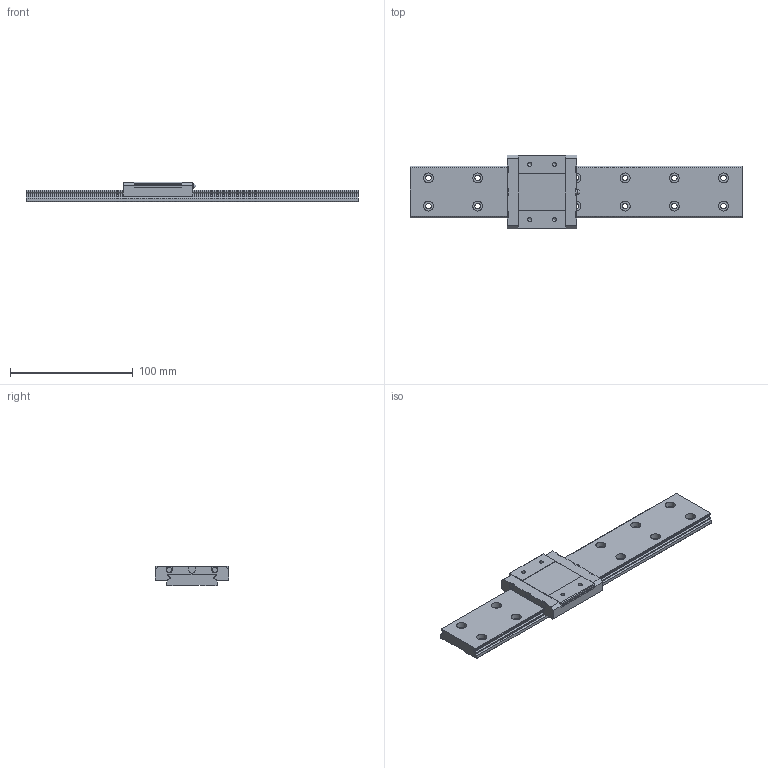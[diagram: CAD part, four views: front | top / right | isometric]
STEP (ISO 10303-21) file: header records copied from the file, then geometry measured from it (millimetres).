
FILE_DESCRIPTION((''),'2;1');
FILE_NAME('D:\製品 (図面)\カタログ用3D\リニアガイド関連\STEP形式\LGM-W\LGM15W.stp','2010-06-02T15:58:10',('Tsuchiya'),(''),'Autodesk Inventor 10','Autodesk Inventor 10','');
FILE_SCHEMA(('AUTOMOTIVE_DESIGN { 1 0 10303 214 1 1 1 1 }'));
Length unit declared in the file: millimetre
Products named in the file (3): LGM15W; LGM15W1; LGM15W2
Assembly tree (2 placements, depth 2):
  LGM15W
    LGM15W1
    LGM15W2
Bounding box: 270 x 60 x 16 mm (x, y, z)
Volume: 122658.1 mm3; surface area: 42510.5 mm2
Topology: 2 solids, 2 shells, 176 faces, 460 edges, 305 vertices
Faces by surface type: plane 83, bspline 60, cylinder 30, cone 2, sphere 1
Full cylindrical faces by diameter (mm): 3.242 x2, 3.5 x1, 4.5 x2
Entity records: 5759 total; most frequent: CARTESIAN_POINT 1589, ORIENTED_EDGE 822, DIRECTION 784, EDGE_CURVE 411, VERTEX_POINT 299, VECTOR 280, LINE 280, EDGE_LOOP 264
